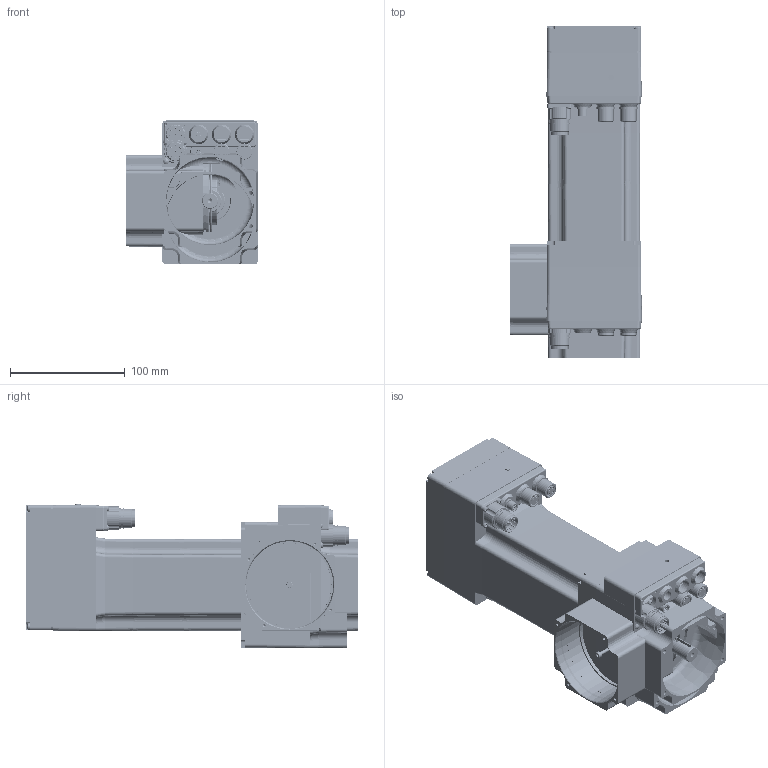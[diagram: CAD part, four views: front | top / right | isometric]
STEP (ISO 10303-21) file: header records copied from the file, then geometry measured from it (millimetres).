
FILE_DESCRIPTION( ( 'Unknown' ), '1' );
FILE_NAME( 'C:/Users/dotti/Desktop/Q0B022/Q0B222 1,5.stp', 'Unknown', ( 'Unknown' ), ( 'Unknown' ), 'PSStep 14.0', 'Unknown', ' ' );
FILE_SCHEMA( ( 'AUTOMOTIVE_DESIGN { 1 0 10303 214 1 1 1 1 }' ) );
Length unit declared in the file: millimetre
Products named in the file (49): T00272; Assem1; 005117000974; N54236; CN M23 PAN-POT BEGA 906 4+5p; VECST-8112 M  2,5 x 12; G00030_ethercat; N33250; LI-PIA   5x5 x 25; CUSC_20_42_12_6004_ZZ; CUSC_15_32_9_6002_ZZ; a-ela  20; Anello-elastico-chiuso  42; 003155001098; LI-PIA   5x5 x 18; N09285; Anello-elastico-chiuso  32; Vite a brugola testa cil 8,8 -  M  3 x 25; Vite a brugola testa cil 8,8 -  M  3 x 25-oa0; Vite a brugola testa cil 8,8 -  M  3 x 25-oa1; Vite a brugola testa cil 8,8 -  M  3 x 25-oa2; Vite a brugola testa cil 8,8 -  M  3 x 40; Vite a brugola testa cil 8,8 -  M  3 x 40-oa3; Vite a brugola testa cil 8,8 -  M  3 x 40-oa4; Vite a brugola testa cil 8,8 -  M  3 x 40-oa5; N35217; VECST-8112 M  3 x 25; Anello OR 2 D32-oa6; Anello OR 1,78 D72,75-2287-oa7; Anello OR 1,78 D72,75-2287-oa8; Anello OR 1,78 D72,75-2287-oa9; N01H22; N54239; 003016000054
Bounding box: 114.5 x 289.13 x 126.21 mm (x, y, z)
Volume: 1228216.7 mm3; surface area: 618887.5 mm2
Topology: 111 solids, 115 shells, 7138 faces, 19218 edges, 12581 vertices
Faces by surface type: plane 3804, cylinder 2448, cone 301, bspline 283, torus 249, sphere 53
Full cylindrical faces by diameter (mm): 1 x39, 1.5 x12, 1.6 x45, 2 x4, 2.4 x24, 2.459 x62, 2.5 x17, 2.7 x12, 3 x21, 3.242 x4, 3.5 x48, 4 x5, 4.134 x2, 4.2 x2, 5 x11, 5.5 x18, 6 x34, 8 x17, 8.5 x9, 8.75 x3, 9 x8, 10 x3, 11 x15, 11.9 x5, 12 x8, 14 x9, 14.4 x3, 14.5 x3, 15 x4, 15.01 x2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
Entity records: 91814 total; most frequent: CARTESIAN_POINT 24397, DIRECTION 11133, ORIENTED_EDGE 10844, EDGE_CURVE 5422, AXIS2_PLACEMENT_3D 4146, VERTEX_POINT 3745, EDGE_LOOP 2929, LINE 2841
